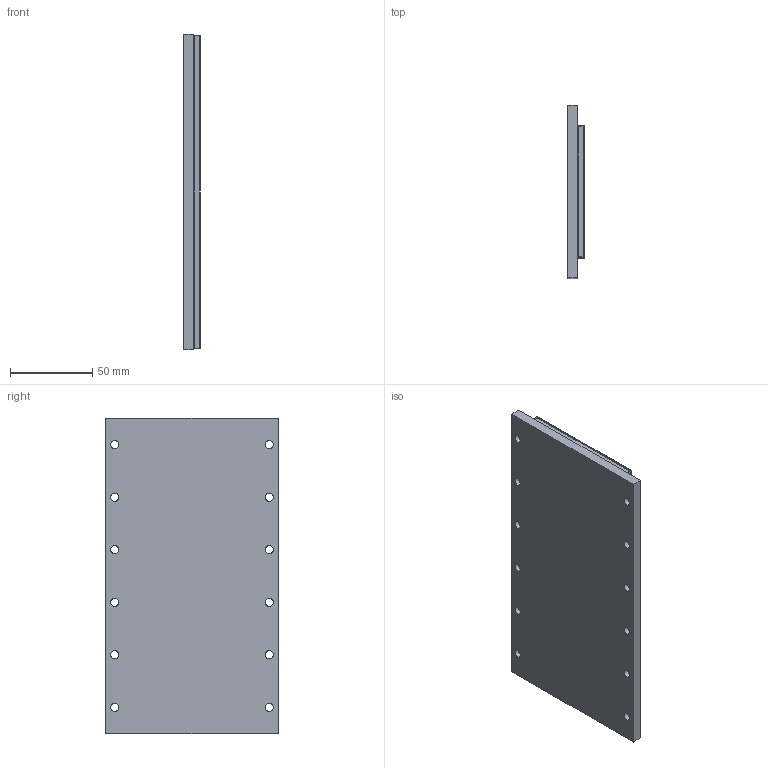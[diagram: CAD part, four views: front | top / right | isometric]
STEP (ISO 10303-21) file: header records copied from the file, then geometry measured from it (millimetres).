
FILE_DESCRIPTION (( 'STEP AP214' ), '1' );
FILE_NAME ('PIXM080-TL192-C.STEP', '2019-03-08T10:35:58', ( '' ), ( '' ), 'SwSTEP 2.0', 'SolidWorks 2016', '' );
FILE_SCHEMA (( 'AUTOMOTIVE_DESIGN' ));
Length unit declared in the file: millimetre
Products named in the file (4): 001SM080LXXX02_TL192; 001SM080000001-CUSTOMER_TL192; 001SM080LXXX01_TL192; PIXM080-TL192-C
Assembly tree (3 placements, depth 2):
  PIXM080-TL192-C
    001SM080LXXX01_TL192
    001SM080000001-CUSTOMER_TL192
    001SM080LXXX02_TL192
Bounding box: 10.3 x 105 x 192 mm (x, y, z)
Volume: 183809.4 mm3; surface area: 110806.1 mm2
Topology: 3 solids, 3 shells, 125 faces, 286 edges, 172 vertices
Faces by surface type: cylinder 64, plane 53, sphere 8
Entity records: 3662 total; most frequent: DIRECTION 668, CARTESIAN_POINT 581, ORIENTED_EDGE 556, EDGE_CURVE 278, AXIS2_PLACEMENT_3D 259, VERTEX_POINT 172, EDGE_LOOP 162, LINE 150
